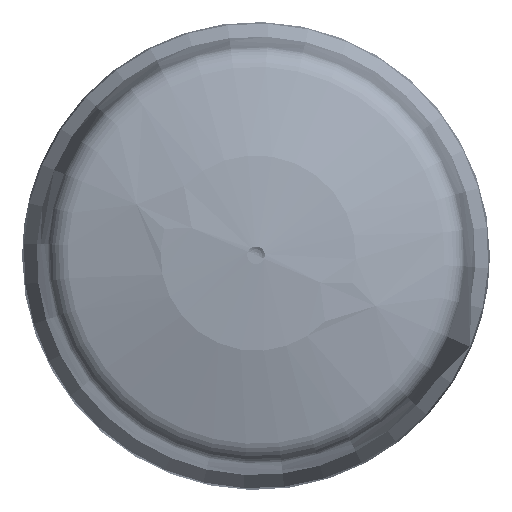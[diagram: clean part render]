
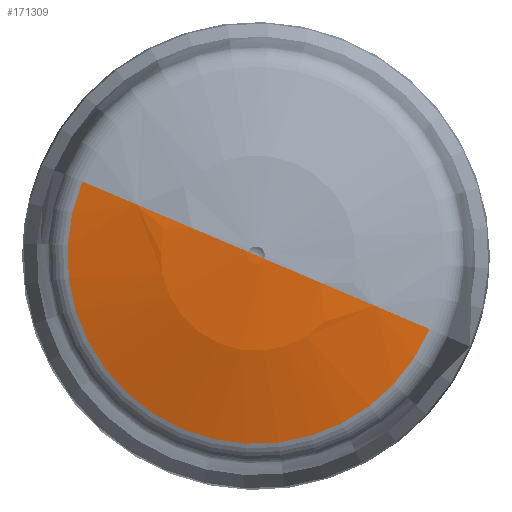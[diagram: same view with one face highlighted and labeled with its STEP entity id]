
A CAD part, top view. The second image highlights one B-rep face of the part: STEP entity #171309.
In plain terms, the highlighted spherical face has radius 200 mm.
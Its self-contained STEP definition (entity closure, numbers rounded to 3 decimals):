
#52175=CARTESIAN_POINT('',(0.,0.,126.321));
#52176=DIRECTION('',(0.,0.,-1.));
#52177=DIRECTION('',(0.92,-0.391,0.));
#52178=AXIS2_PLACEMENT_3D('',#52175,#52176,#52177);
#52180=CARTESIAN_POINT('',(0.,0.,136.978));
#52181=DIRECTION('',(0.,0.,-1.));
#52182=DIRECTION('',(0.92,-0.391,0.));
#52183=AXIS2_PLACEMENT_3D('',#52180,#52181,#52182);
#52200=CARTESIAN_POINT('',(0.,0.,-63.));
#52201=DIRECTION('',(-0.391,-0.92,0.));
#52202=DIRECTION('',(-0.014,0.006,1.));
#52203=AXIS2_PLACEMENT_3D('',#52200,#52201,#52202);
#52210=CARTESIAN_POINT('',(0.,0.,-63.));
#52211=DIRECTION('',(-0.391,-0.92,0.));
#52212=DIRECTION('',(0.297,-0.126,0.947));
#52213=AXIS2_PLACEMENT_3D('',#52210,#52211,#52212);
#68005=CARTESIAN_POINT('',(-59.339,25.223,
126.321));
#68006=VERTEX_POINT('',#68005);
#68007=CARTESIAN_POINT('',(59.339,-25.223,
126.321));
#68008=VERTEX_POINT('',#68007);
#68009=CARTESIAN_POINT('',(2.746,-1.167,
136.978));
#68010=CARTESIAN_POINT('',(-2.746,1.167,
136.978));
#68011=VERTEX_POINT('',#68009);
#68012=VERTEX_POINT('',#68010);
#171295=CARTESIAN_POINT('',(0.,0.,-63.));
#171296=DIRECTION('',(0.,0.,1.));
#171297=DIRECTION('',(-0.92,0.391,0.));
#171298=AXIS2_PLACEMENT_3D('',#171295,#171296,#171297);
#171299=SPHERICAL_SURFACE('',#171298,200.);
#171301=ORIENTED_EDGE('',*,*,#171300,.F.);
#171303=ORIENTED_EDGE('',*,*,#171302,.F.);
#171304=ORIENTED_EDGE('',*,*,#171288,.T.);
#171306=ORIENTED_EDGE('',*,*,#171305,.F.);
#171307=EDGE_LOOP('',(#171301,#171303,#171304,#171306));
#171308=FACE_OUTER_BOUND('',#171307,.F.);
#171309=ADVANCED_FACE('',(#171308),#171299,.T.);
#52179=CIRCLE('',#52178,64.478);
#52184=CIRCLE('',#52183,2.983);
#52204=CIRCLE('',#52203,200.);
#52214=CIRCLE('',#52213,200.);
#171288=EDGE_CURVE('',#68008,#68006,#52179,.T.);
#171300=EDGE_CURVE('',#68011,#68012,#52184,.T.);
#171302=EDGE_CURVE('',#68008,#68011,#52214,.T.);
#171305=EDGE_CURVE('',#68012,#68006,#52204,.T.);
